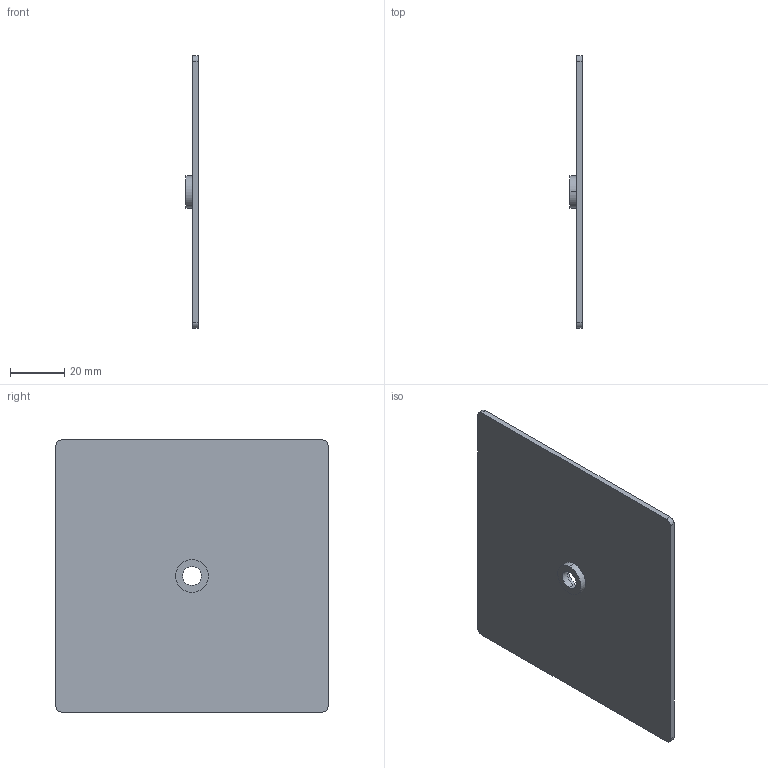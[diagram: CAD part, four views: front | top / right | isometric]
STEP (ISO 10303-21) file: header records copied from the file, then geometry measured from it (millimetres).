
FILE_DESCRIPTION (( 'STEP AP214' ), '1' );
FILE_NAME ('CEILING_PLATE.STEP', '2018-04-09T12:42:39', ( 'Utente' ), ( '' ), 'SwSTEP 2.0', 'SolidWorks 2016', '' );
FILE_SCHEMA (( 'AUTOMOTIVE_DESIGN' ));
Length unit declared in the file: millimetre
Products named in the file (2): Group1^CEILING_PLATE; CEILING_PLATE
Assembly tree (1 placements, depth 2):
  CEILING_PLATE
    Group1^CEILING_PLATE
Bounding box: 4.5 x 100 x 100 mm (x, y, z)
Volume: 20016.2 mm3; surface area: 20922.6 mm2
Topology: 1 solids, 1 shells, 18 faces, 42 edges, 28 vertices
Faces by surface type: cylinder 10, plane 8
Entity records: 651 total; most frequent: DIRECTION 106, CARTESIAN_POINT 92, ORIENTED_EDGE 84, AXIS2_PLACEMENT_3D 42, EDGE_CURVE 42, VERTEX_POINT 28, EDGE_LOOP 22, VECTOR 22
